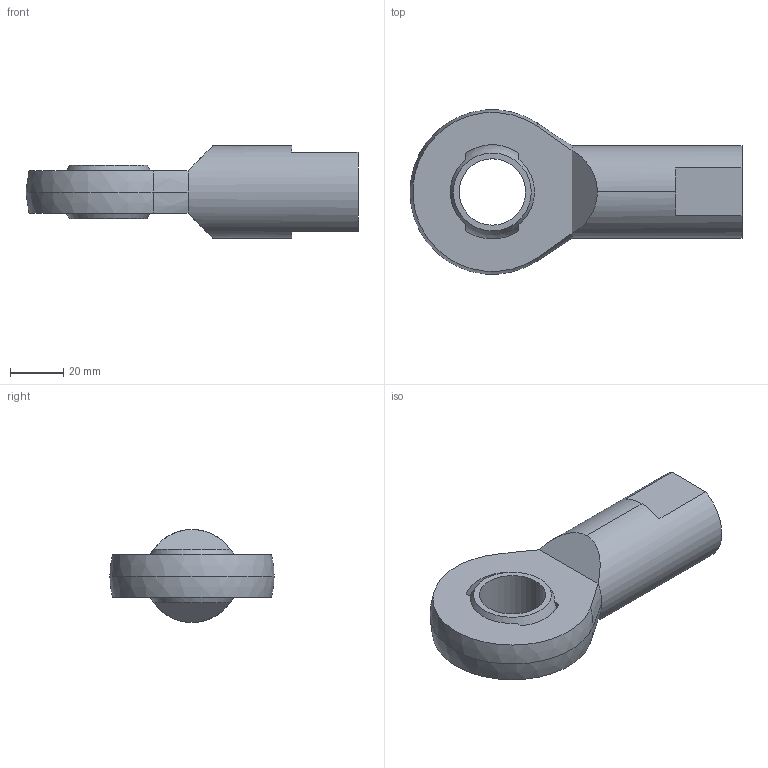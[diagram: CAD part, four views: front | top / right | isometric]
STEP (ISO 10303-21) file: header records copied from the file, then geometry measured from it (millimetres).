
FILE_DESCRIPTION (( 'STEP AP203' ), '1' );
FILE_NAME ('65880.W0225.step', '2014-02-06T18:32:18', ( 'User' ), ( '' ), 'SwSTEP 2.0', 'SolidWorks 2009', '' );
FILE_SCHEMA (( 'CONFIG_CONTROL_DESIGN' ));
Length unit declared in the file: millimetre
Products named in the file (3): 65880.W0225; Part2_65880.W0225; Part1_65880.W0225
Assembly tree (2 placements, depth 2):
  65880.W0225
    Part2_65880.W0225
    Part1_65880.W0225
Bounding box: 125 x 61.8 x 35 mm (x, y, z)
Volume: 77063.6 mm3; surface area: 24303.5 mm2
Topology: 2 solids, 2 shells, 45 faces, 108 edges, 67 vertices
Faces by surface type: plane 20, cylinder 10, sphere 8, cone 7
Entity records: 1624 total; most frequent: CARTESIAN_POINT 253, DIRECTION 253, ORIENTED_EDGE 208, AXIS2_PLACEMENT_3D 107, EDGE_CURVE 104, VERTEX_POINT 67, CIRCLE 57, EDGE_LOOP 53
